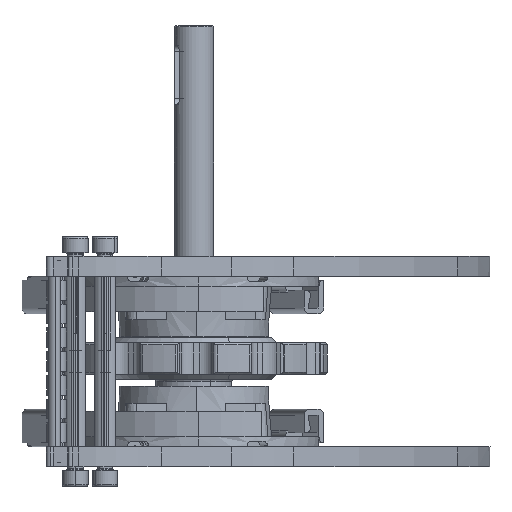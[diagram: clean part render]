
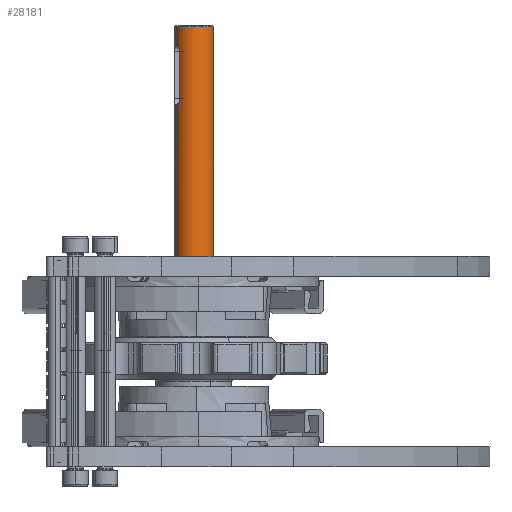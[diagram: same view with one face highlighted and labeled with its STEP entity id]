
A CAD part, left-side view. The second image highlights one B-rep face of the part: STEP entity #28181.
In plain terms, the highlighted cylindrical face has radius 10 mm (diameter 20 mm), a partial arc.
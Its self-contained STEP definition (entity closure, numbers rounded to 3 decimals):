
#2350 = VERTEX_POINT ( 'NONE', #6717 ) ;
#2352 = VERTEX_POINT ( 'NONE', #6764 ) ;
#6717 = CARTESIAN_POINT ( 'NONE',  ( 209.5, 0., 10. ) ) ;
#6764 = CARTESIAN_POINT ( 'NONE',  ( 209.5, 0., -10. ) ) ;
#17239 = CARTESIAN_POINT ( 'NONE',  ( 200., 0., 10. ) ) ;
#18406 = CARTESIAN_POINT ( 'NONE',  ( 84., 0., 10. ) ) ;
#18521 = CARTESIAN_POINT ( 'NONE',  ( 84., 0., -10. ) ) ;
#18527 = CARTESIAN_POINT ( 'NONE',  ( 170., 0., 10. ) ) ;
#18610 = DIRECTION ( 'NONE',  ( -1., 0., 0. ) ) ;
#18611 = VECTOR ( 'NONE', #18610, 1000. ) ;
#18612 = CARTESIAN_POINT ( 'NONE',  ( 84., 0., -10. ) ) ;
#18615 = LINE ( 'NONE', #18612, #18611 ) ;
#18646 = DIRECTION ( 'NONE',  ( -1., 0., 0. ) ) ;
#18647 = VECTOR ( 'NONE', #18646, 1000. ) ;
#18650 = CARTESIAN_POINT ( 'NONE',  ( 84., 0., 10. ) ) ;
#18651 = LINE ( 'NONE', #18650, #18647 ) ;
#18696 = DIRECTION ( 'NONE',  ( -1., 0., 0. ) ) ;
#18697 = VECTOR ( 'NONE', #18696, 1000. ) ;
#18698 = CARTESIAN_POINT ( 'NONE',  ( 84., 0., 10. ) ) ;
#18699 = LINE ( 'NONE', #18698, #18697 ) ;
#20381 = CIRCLE ( 'NONE', #20449, 10. ) ;
#20386 = AXIS2_PLACEMENT_3D ( 'NONE', #20427, #20470, #20468 ) ;
#20418 = FACE_OUTER_BOUND ( 'NONE', #28170, .T. ) ;
#20420 = CYLINDRICAL_SURFACE ( 'NONE', #20386, 10. ) ;
#20427 = CARTESIAN_POINT ( 'NONE',  ( 84., 0., 0. ) ) ;
#20446 = DIRECTION ( 'NONE',  ( 0., 0., -1. ) ) ;
#20447 = DIRECTION ( 'NONE',  ( 1., 0., 0. ) ) ;
#20448 = CARTESIAN_POINT ( 'NONE',  ( 84., 0., 0. ) ) ;
#20449 = AXIS2_PLACEMENT_3D ( 'NONE', #20448, #20447, #20446 ) ;
#20468 = DIRECTION ( 'NONE',  ( 0., 0., 1. ) ) ;
#20470 = DIRECTION ( 'NONE',  ( -1., 0., 0. ) ) ;
#20482 = CARTESIAN_POINT ( 'NONE',  ( 170.154, -0.97, 9.955 ) ) ;
#20483 = CARTESIAN_POINT ( 'NONE',  ( 170.097, -0.782, 9.971 ) ) ;
#20485 = CARTESIAN_POINT ( 'NONE',  ( 170.02, -0.397, 9.994 ) ) ;
#20486 = CARTESIAN_POINT ( 'NONE',  ( 170., -0.197, 10. ) ) ;
#20487 = CARTESIAN_POINT ( 'NONE',  ( 170., 0., 10. ) ) ;
#20496 = B_SPLINE_CURVE_WITH_KNOTS ( 'NONE', 3,
 ( #20487, #20486, #20485, #20483, #20482, #20552, #20551, #20550, #20549, #20548, #20547, #20545, #20544, #20543, #20542, #20541, #20540, #20539 ),
 .UNSPECIFIED., .F., .F.,
 ( 4, 2, 2, 2, 2, 2, 2, 2, 4 ),
 ( 0.005, 0.005, 0.006, 0.006, 0.007, 0.008, 0.008, 0.009, 0.009 ),
 .UNSPECIFIED. ) ;
#20520 = B_SPLINE_CURVE_WITH_KNOTS ( 'NONE', 3,
 ( #20583, #20582, #20581, #20580, #20579, #20578, #20577, #20576, #20575, #20574, #20573, #20571, #20570, #20569, #20568, #20567 ),
 .UNSPECIFIED., .F., .F.,
 ( 4, 2, 2, 2, 2, 2, 2, 4 ),
 ( 0., 0.001, 0.001, 0.002, 0.002, 0.004, 0.004, 0.005 ),
 .UNSPECIFIED. ) ;
#20526 = DIRECTION ( 'NONE',  ( 0., 0., -1. ) ) ;
#20527 = DIRECTION ( 'NONE',  ( -1., 0., 0. ) ) ;
#20528 = CARTESIAN_POINT ( 'NONE',  ( 209.5, 0., 0. ) ) ;
#20529 = AXIS2_PLACEMENT_3D ( 'NONE', #20528, #20527, #20526 ) ;
#20530 = CARTESIAN_POINT ( 'NONE',  ( 84., -3., 9.539 ) ) ;
#20531 = LINE ( 'NONE', #20530, #20585 ) ;
#20532 = CARTESIAN_POINT ( 'NONE',  ( 173., -3., 9.539 ) ) ;
#20533 = CIRCLE ( 'NONE', #20529, 10. ) ;
#20539 = CARTESIAN_POINT ( 'NONE',  ( 173., -3., 9.539 ) ) ;
#20540 = CARTESIAN_POINT ( 'NONE',  ( 172.801, -3., 9.539 ) ) ;
#20541 = CARTESIAN_POINT ( 'NONE',  ( 172.601, -2.98, 9.546 ) ) ;
#20542 = CARTESIAN_POINT ( 'NONE',  ( 172.215, -2.902, 9.57 ) ) ;
#20543 = CARTESIAN_POINT ( 'NONE',  ( 172.028, -2.845, 9.587 ) ) ;
#20544 = CARTESIAN_POINT ( 'NONE',  ( 171.667, -2.694, 9.63 ) ) ;
#20545 = CARTESIAN_POINT ( 'NONE',  ( 171.491, -2.6, 9.657 ) ) ;
#20547 = CARTESIAN_POINT ( 'NONE',  ( 171.167, -2.383, 9.713 ) ) ;
#20548 = CARTESIAN_POINT ( 'NONE',  ( 171.017, -2.26, 9.742 ) ) ;
#20549 = CARTESIAN_POINT ( 'NONE',  ( 170.741, -1.983, 9.802 ) ) ;
#20550 = CARTESIAN_POINT ( 'NONE',  ( 170.616, -1.831, 9.832 ) ) ;
#20551 = CARTESIAN_POINT ( 'NONE',  ( 170.399, -1.507, 9.887 ) ) ;
#20552 = CARTESIAN_POINT ( 'NONE',  ( 170.306, -1.334, 9.912 ) ) ;
#20564 = CARTESIAN_POINT ( 'NONE',  ( 197., -3., 9.539 ) ) ;
#20567 = CARTESIAN_POINT ( 'NONE',  ( 200., 0., 10. ) ) ;
#20568 = CARTESIAN_POINT ( 'NONE',  ( 200., -0.197, 10. ) ) ;
#20569 = CARTESIAN_POINT ( 'NONE',  ( 199.981, -0.393, 9.994 ) ) ;
#20570 = CARTESIAN_POINT ( 'NONE',  ( 199.903, -0.781, 9.971 ) ) ;
#20571 = CARTESIAN_POINT ( 'NONE',  ( 199.845, -0.971, 9.954 ) ) ;
#20573 = CARTESIAN_POINT ( 'NONE',  ( 199.62, -1.512, 9.892 ) ) ;
#20574 = CARTESIAN_POINT ( 'NONE',  ( 199.397, -1.845, 9.832 ) ) ;
#20575 = CARTESIAN_POINT ( 'NONE',  ( 198.985, -2.258, 9.743 ) ) ;
#20576 = CARTESIAN_POINT ( 'NONE',  ( 198.832, -2.384, 9.712 ) ) ;
#20577 = CARTESIAN_POINT ( 'NONE',  ( 198.506, -2.602, 9.656 ) ) ;
#20578 = CARTESIAN_POINT ( 'NONE',  ( 198.335, -2.694, 9.631 ) ) ;
#20579 = CARTESIAN_POINT ( 'NONE',  ( 197.972, -2.845, 9.587 ) ) ;
#20580 = CARTESIAN_POINT ( 'NONE',  ( 197.781, -2.903, 9.569 ) ) ;
#20581 = CARTESIAN_POINT ( 'NONE',  ( 197.395, -2.98, 9.546 ) ) ;
#20582 = CARTESIAN_POINT ( 'NONE',  ( 197.2, -3., 9.539 ) ) ;
#20583 = CARTESIAN_POINT ( 'NONE',  ( 197., -3., 9.539 ) ) ;
#20584 = DIRECTION ( 'NONE',  ( 1., 0., 0. ) ) ;
#20585 = VECTOR ( 'NONE', #20584, 1000. ) ;
#23268 = VERTEX_POINT ( 'NONE', #17239 ) ;
#27173 = VERTEX_POINT ( 'NONE', #18406 ) ;
#27218 = VERTEX_POINT ( 'NONE', #18527 ) ;
#27230 = VERTEX_POINT ( 'NONE', #18521 ) ;
#27264 = EDGE_CURVE ( 'NONE', #2352, #27230, #18615, .T. ) ;
#27275 = EDGE_CURVE ( 'NONE', #27218, #27173, #18651, .T. ) ;
#27308 = EDGE_CURVE ( 'NONE', #2350, #23268, #18699, .T. ) ;
#28149 = EDGE_CURVE ( 'NONE', #27173, #27230, #20381, .T. ) ;
#28170 = EDGE_LOOP ( 'NONE', ( #28192, #28215, #28203, #28235, #28205, #28244, #28200, #28229 ) ) ;
#28181 = ADVANCED_FACE ( 'NONE', ( #20418 ), #20420, .T. ) ;
#28192 = ORIENTED_EDGE ( 'NONE', *, *, #27264, .F. ) ;
#28200 = ORIENTED_EDGE ( 'NONE', *, *, #27275, .T. ) ;
#28203 = ORIENTED_EDGE ( 'NONE', *, *, #27308, .T. ) ;
#28205 = ORIENTED_EDGE ( 'NONE', *, *, #28227, .F. ) ;
#28208 = EDGE_CURVE ( 'NONE', #27218, #28228, #20496, .T. ) ;
#28215 = ORIENTED_EDGE ( 'NONE', *, *, #28219, .T. ) ;
#28219 = EDGE_CURVE ( 'NONE', #2352, #2350, #20533, .T. ) ;
#28223 = EDGE_CURVE ( 'NONE', #28232, #23268, #20520, .T. ) ;
#28227 = EDGE_CURVE ( 'NONE', #28228, #28232, #20531, .T. ) ;
#28228 = VERTEX_POINT ( 'NONE', #20532 ) ;
#28229 = ORIENTED_EDGE ( 'NONE', *, *, #28149, .T. ) ;
#28232 = VERTEX_POINT ( 'NONE', #20564 ) ;
#28235 = ORIENTED_EDGE ( 'NONE', *, *, #28223, .F. ) ;
#28244 = ORIENTED_EDGE ( 'NONE', *, *, #28208, .F. ) ;
